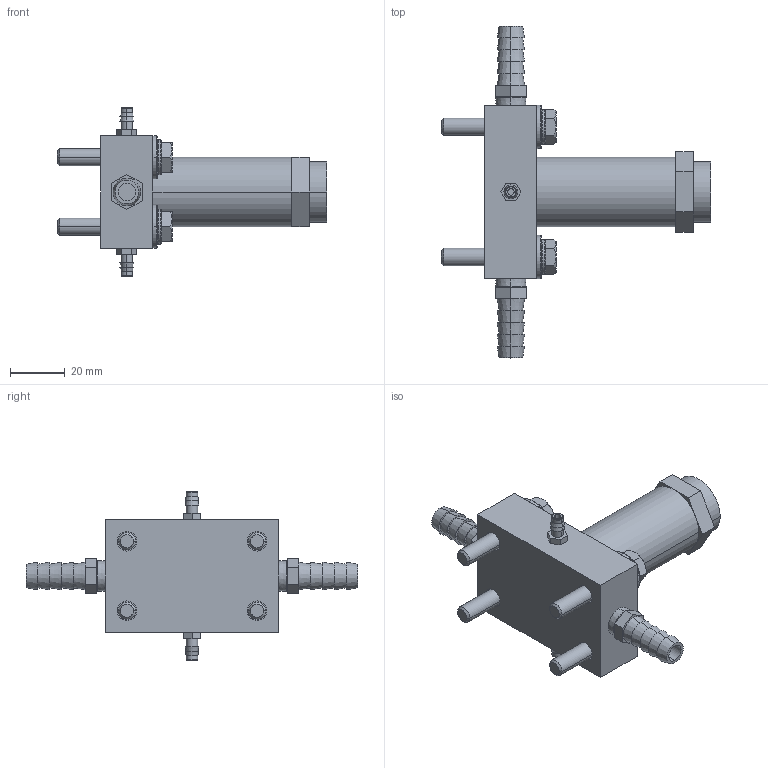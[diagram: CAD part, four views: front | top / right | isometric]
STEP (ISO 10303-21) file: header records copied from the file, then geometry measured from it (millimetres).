
FILE_DESCRIPTION((''),'2;1');
FILE_NAME('XAR2_ASM','2017-08-24T',('jennifer.elliott'),('CenterLine (Windsor) Ltd - Automation Components Division'),'PRO/ENGINEER BY PARAMETRIC TECHNOLOGY CORPORATION, 2015030','PRO/ENGINEER BY PARAMETRIC TECHNOLOGY CORPORATION, 2015030','');
FILE_SCHEMA(('AUTOMOTIVE_DESIGN { 1 0 10303 214 1 1 1 1 }'));
Length unit declared in the file: inch
Products named in the file (18): PRT0884; PRT0885; PRT0886; PRT0887; PRT0888; PRT0889; PRT0890; PRT0891; PRT0892; PRT0893; PRT0894; PRT0895; ASM0012_ASM; PRT0896; PRT0897; PRT0898; PRT0899; XAR2_ASM
Assembly tree (17 placements, depth 3):
  XAR2_ASM
    PRT0884
    PRT0885
    PRT0886
    PRT0887
    PRT0888
    PRT0889
    PRT0890
    PRT0891
    ASM0012_ASM
      PRT0892
      PRT0893
      PRT0894
      PRT0895
    PRT0896
    PRT0897
    PRT0898
    PRT0899
Bounding box: 98.42 x 121.41 x 61.9 mm (x, y, z)
Volume: 89539.4 mm3; surface area: 29324.5 mm2
Topology: 16 solids, 16 shells, 282 faces, 646 edges, 420 vertices
Faces by surface type: plane 126, cone 64, cylinder 60, torus 32
Entity records: 9503 total; most frequent: CARTESIAN_POINT 1888, DIRECTION 1496, ORIENTED_EDGE 1292, EDGE_CURVE 646, AXIS2_PLACEMENT_3D 617, VERTEX_POINT 420, EDGE_LOOP 330, CIRCLE 296
